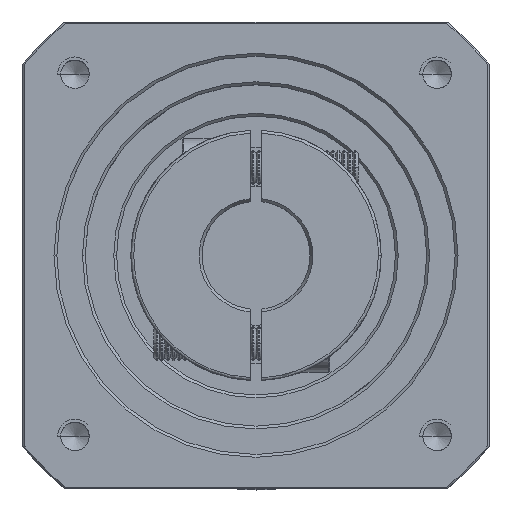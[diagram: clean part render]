
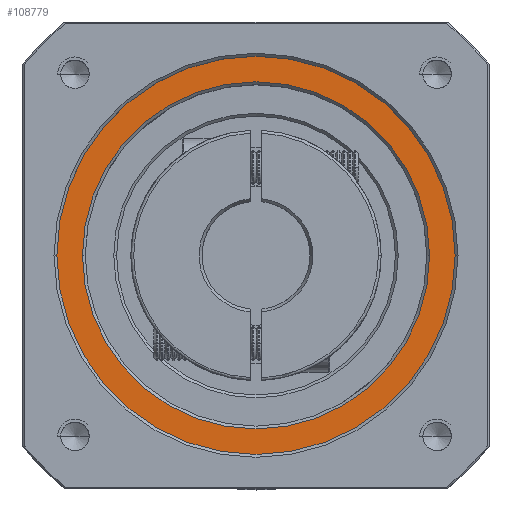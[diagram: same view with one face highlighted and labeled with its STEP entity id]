
A CAD part, top view. The second image highlights one B-rep face of the part: STEP entity #108779.
In plain terms, the highlighted planar face has unit normal (0, 0, 1).
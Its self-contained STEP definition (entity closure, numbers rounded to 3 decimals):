
#257 = AXIS2_PLACEMENT_3D ( 'NONE', #70492, #11578, #80404 ) ;
#3702 = DIRECTION ( 'NONE',  ( 0., 0., 1. ) ) ;
#4578 = AXIS2_PLACEMENT_3D ( 'NONE', #7697, #76548, #17609 ) ;
#7697 = CARTESIAN_POINT ( 'NONE',  ( -86.742, 36.434, 43.304 ) ) ;
#10683 = CARTESIAN_POINT ( 'NONE',  ( -51.742, 36.434, 43.304 ) ) ;
#11578 = DIRECTION ( 'NONE',  ( 0., 0., 1. ) ) ;
#17472 = VERTEX_POINT ( 'NONE', #37562 ) ;
#17609 = DIRECTION ( 'NONE',  ( 1., 0., 0. ) ) ;
#20664 = CARTESIAN_POINT ( 'NONE',  ( -86.742, 36.434, 43.304 ) ) ;
#22170 = CIRCLE ( 'NONE', #37152, 30.5 ) ;
#22212 = PLANE ( 'NONE',  #89841 ) ;
#29744 = AXIS2_PLACEMENT_3D ( 'NONE', #20664, #89457, #30505 ) ;
#30505 = DIRECTION ( 'NONE',  ( 1., 0., 0. ) ) ;
#37152 = AXIS2_PLACEMENT_3D ( 'NONE', #97667, #38761, #107527 ) ;
#37562 = CARTESIAN_POINT ( 'NONE',  ( -121.742, 36.434, 43.304 ) ) ;
#38761 = DIRECTION ( 'NONE',  ( 0., 0., -1. ) ) ;
#39448 = CIRCLE ( 'NONE', #29744, 30.5 ) ;
#45727 = CARTESIAN_POINT ( 'NONE',  ( -117.242, 36.434, 43.304 ) ) ;
#46111 = EDGE_CURVE ( 'NONE', #117081, #69696, #22170, .T. ) ;
#46355 = CIRCLE ( 'NONE', #257, 35. ) ;
#49233 = ORIENTED_EDGE ( 'NONE', *, *, #94147, .T. ) ;
#51711 = EDGE_LOOP ( 'NONE', ( #124296, #80571 ) ) ;
#54536 = EDGE_LOOP ( 'NONE', ( #98624, #49233 ) ) ;
#57859 = FACE_OUTER_BOUND ( 'NONE', #54536, .T. ) ;
#58791 = VERTEX_POINT ( 'NONE', #10683 ) ;
#62601 = CARTESIAN_POINT ( 'NONE',  ( -86.742, 36.434, 43.304 ) ) ;
#69696 = VERTEX_POINT ( 'NONE', #71772 ) ;
#70492 = CARTESIAN_POINT ( 'NONE',  ( -86.742, 36.434, 43.304 ) ) ;
#71772 = CARTESIAN_POINT ( 'NONE',  ( -56.242, 36.434, 43.304 ) ) ;
#72512 = DIRECTION ( 'NONE',  ( 1., 0., 0. ) ) ;
#76548 = DIRECTION ( 'NONE',  ( 0., 0., 1. ) ) ;
#80404 = DIRECTION ( 'NONE',  ( 1., 0., 0. ) ) ;
#80571 = ORIENTED_EDGE ( 'NONE', *, *, #46111, .T. ) ;
#86719 = EDGE_CURVE ( 'NONE', #58791, #17472, #46355, .T. ) ;
#87483 = CIRCLE ( 'NONE', #4578, 35. ) ;
#89457 = DIRECTION ( 'NONE',  ( 0., 0., -1. ) ) ;
#89841 = AXIS2_PLACEMENT_3D ( 'NONE', #62601, #3702, #72512 ) ;
#94147 = EDGE_CURVE ( 'NONE', #17472, #58791, #87483, .T. ) ;
#97667 = CARTESIAN_POINT ( 'NONE',  ( -86.742, 36.434, 43.304 ) ) ;
#98060 = EDGE_CURVE ( 'NONE', #69696, #117081, #39448, .T. ) ;
#98624 = ORIENTED_EDGE ( 'NONE', *, *, #86719, .T. ) ;
#107527 = DIRECTION ( 'NONE',  ( 1., 0., 0. ) ) ;
#108779 = ADVANCED_FACE ( 'NONE', ( #57859, #110067 ), #22212, .T. ) ;
#110067 = FACE_BOUND ( 'NONE', #51711, .T. ) ;
#117081 = VERTEX_POINT ( 'NONE', #45727 ) ;
#124296 = ORIENTED_EDGE ( 'NONE', *, *, #98060, .T. ) ;
